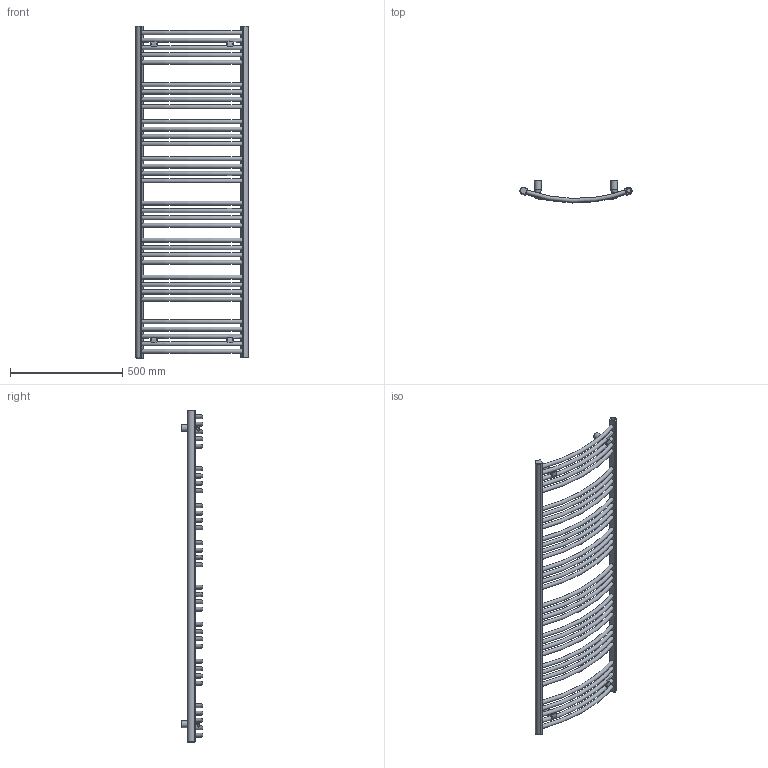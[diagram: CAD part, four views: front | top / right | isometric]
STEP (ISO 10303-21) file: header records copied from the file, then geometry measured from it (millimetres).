
FILE_DESCRIPTION((''),'2;1');
FILE_NAME('Z:\R\G\P\RGPH14 - Grzejnik Domi\Work\Inventor\Marketing\STEP\DO-14-50 SX.stp','2012-07-23T16:37:58',('PioRo'),(''),'Autodesk Inventor 2012','Autodesk Inventor 2012','');
FILE_SCHEMA(('AUTOMOTIVE_DESIGN { 1 0 10303 214 1 1 1 1 }'));
Length unit declared in the file: millimetre
Products named in the file (1): DO-14-50 SX
Bounding box: 500 x 95.77 x 1479 mm (x, y, z)
Volume: 6427393.2 mm3; surface area: 1199088.5 mm2
Topology: 1 solids, 5 shells, 230 faces, 572 edges, 365 vertices
Faces by surface type: cylinder 81, plane 75, torus 50, bspline 20, cone 4
Full cylindrical faces by diameter (mm): 5 x8, 9 x4, 18.631 x3, 21.8 x4, 30 x4
Entity records: 7865 total; most frequent: CARTESIAN_POINT 2235, DIRECTION 1105, ORIENTED_EDGE 998, EDGE_CURVE 499, AXIS2_PLACEMENT_3D 479, EDGE_LOOP 402, VERTEX_POINT 353, CIRCLE 252
